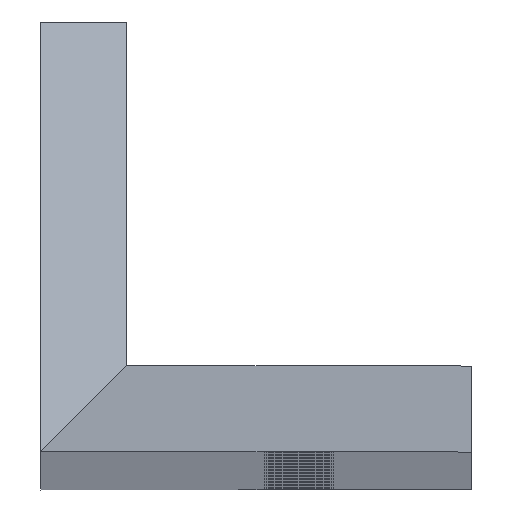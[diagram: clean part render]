
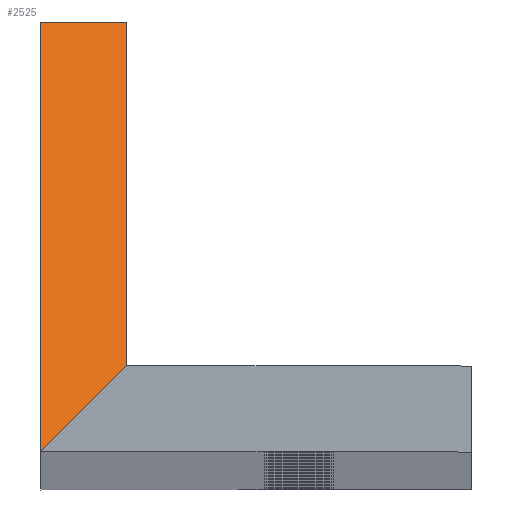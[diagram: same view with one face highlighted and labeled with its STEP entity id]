
A CAD part, top view. The second image highlights one B-rep face of the part: STEP entity #2525.
In plain terms, the highlighted planar face has unit normal (0, 0.707, 0.707).
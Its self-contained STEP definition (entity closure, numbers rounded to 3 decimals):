
#516 = EDGE_LOOP ( 'NONE', ( #1341, #1323, #1288, #1301 ) ) ;
#1175 = FACE_OUTER_BOUND ( 'NONE', #516, .T. ) ;
#1237 = LINE ( 'NONE', #2206, #1241 ) ;
#1238 = LINE ( 'NONE', #2412, #1276 ) ;
#1241 = VECTOR ( 'NONE', #2205, 1000. ) ;
#1267 = VECTOR ( 'NONE', #2333, 1000. ) ;
#1276 = VECTOR ( 'NONE', #2413, 1000. ) ;
#1280 = LINE ( 'NONE', #2346, #1267 ) ;
#1288 = ORIENTED_EDGE ( 'NONE', *, *, #3630, .F. ) ;
#1301 = ORIENTED_EDGE ( 'NONE', *, *, #3604, .F. ) ;
#1323 = ORIENTED_EDGE ( 'NONE', *, *, #3695, .F. ) ;
#1341 = ORIENTED_EDGE ( 'NONE', *, *, #3633, .T. ) ;
#1400 = CARTESIAN_POINT ( 'NONE',  ( -6.667, 3.333, 512.667 ) ) ;
#1401 = DIRECTION ( 'NONE',  ( -0.577, -0.577, 0.577 ) ) ;
#1904 = PLANE ( 'NONE',  #3936 ) ;
#1905 = CARTESIAN_POINT ( 'NONE',  ( 0., 0., 516. ) ) ;
#1907 = DIRECTION ( 'NONE',  ( 0., 0.707, -0.707 ) ) ;
#1914 = DIRECTION ( 'NONE',  ( 0., -0.707, -0.707 ) ) ;
#2044 = CARTESIAN_POINT ( 'NONE',  ( -8., 2., 514. ) ) ;
#2173 = LINE ( 'NONE', #1400, #2188 ) ;
#2188 = VECTOR ( 'NONE', #1401, 1000. ) ;
#2205 = DIRECTION ( 'NONE',  ( 0., -0.707, 0.707 ) ) ;
#2206 = CARTESIAN_POINT ( 'NONE',  ( -10., 0., 516. ) ) ;
#2311 = CARTESIAN_POINT ( 'NONE',  ( -8., 10., 506. ) ) ;
#2333 = DIRECTION ( 'NONE',  ( 1., 0., 0. ) ) ;
#2339 = CARTESIAN_POINT ( 'NONE',  ( -10., 10., 506. ) ) ;
#2346 = CARTESIAN_POINT ( 'NONE',  ( -10., 10., 506. ) ) ;
#2349 = CARTESIAN_POINT ( 'NONE',  ( -10., 0., 516. ) ) ;
#2412 = CARTESIAN_POINT ( 'NONE',  ( -8., 5., 511. ) ) ;
#2413 = DIRECTION ( 'NONE',  ( 0., -0.707, 0.707 ) ) ;
#2525 = ADVANCED_FACE ( 'NONE', ( #1175 ), #1904, .F. ) ;
#2998 = VERTEX_POINT ( 'NONE', #2044 ) ;
#3106 = VERTEX_POINT ( 'NONE', #2339 ) ;
#3110 = VERTEX_POINT ( 'NONE', #2311 ) ;
#3114 = VERTEX_POINT ( 'NONE', #2349 ) ;
#3604 = EDGE_CURVE ( 'NONE', #3106, #3110, #1280, .T. ) ;
#3630 = EDGE_CURVE ( 'NONE', #3110, #2998, #1238, .T. ) ;
#3633 = EDGE_CURVE ( 'NONE', #3106, #3114, #1237, .T. ) ;
#3695 = EDGE_CURVE ( 'NONE', #2998, #3114, #2173, .T. ) ;
#3936 = AXIS2_PLACEMENT_3D ( 'NONE', #1905, #1914, #1907 ) ;
